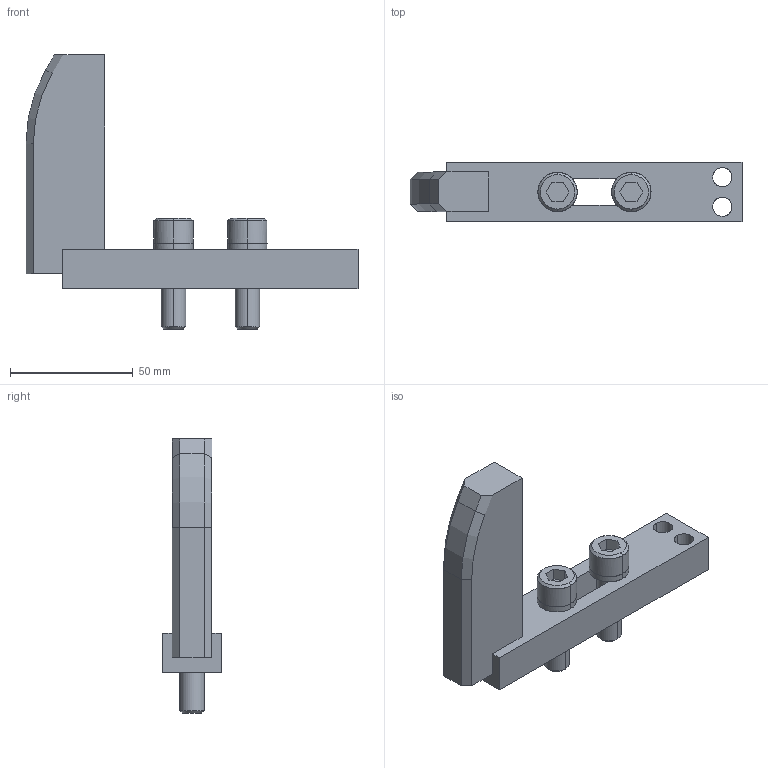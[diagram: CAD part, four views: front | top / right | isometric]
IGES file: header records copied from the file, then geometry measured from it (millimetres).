
Global section: file name: E:\UnigraphicsGraphicData\MISUMI_PRESS-PARTS\IGES\3d_ngnx-95-20-a120-b45-m10_01563_r00.igs; native system: NX V5.0; preprocessor: UGS NX IGES V5.0; author: MISUMI; date: 20110105.162106; units: millimetre
Bounding box: 135 x 24 x 111.5 mm (x, y, z)
Surface area: 26347.3 mm2 (no closed solid volume)
Topology: 0 solids, 0 shells, 100 faces, 630 edges, 630 vertices
Faces by surface type: bspline 100
